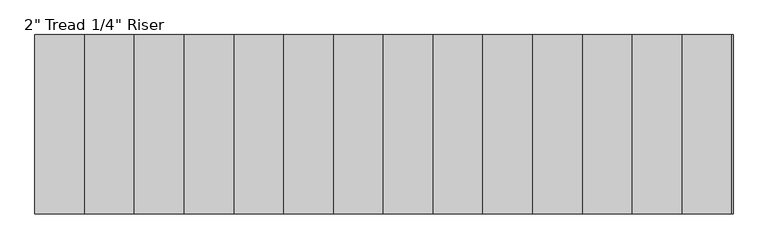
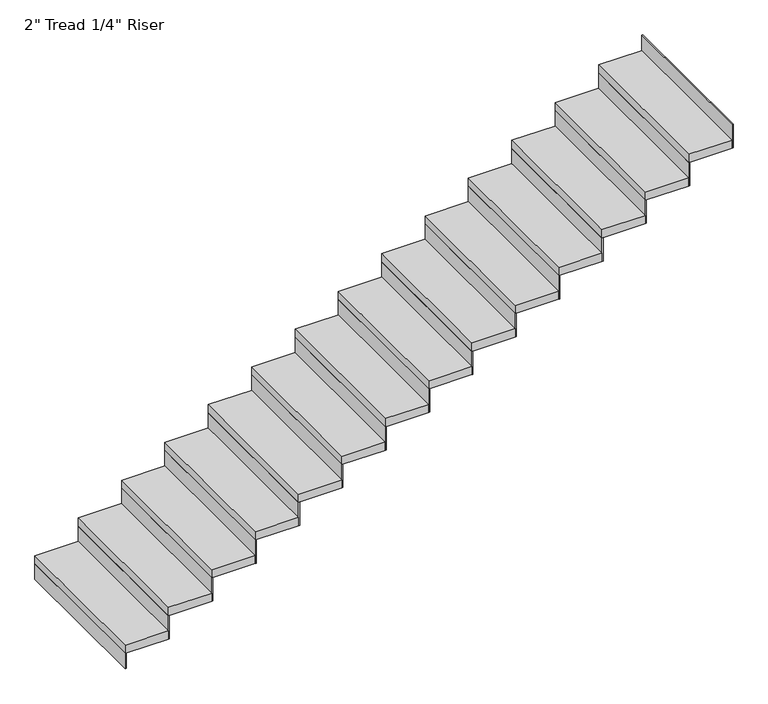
"""IFC4 building model written with IfcOpenShell, lengths in millimetres: stair flight geometry."""

from ifc_helpers import new_model, si_unit, frame, origin, origin_with_axes, place, context, project, spatial, polyline, outline, extrude, source, transform, mapped, element, save


def stair_flight_df6e5273(model_context):
    return source(origin(), model_context, "Body", "SweptSolid", [
        extrude(outline(polyline([(84202.5548368, 32313.9530185), (84196.2048368, 32313.9530185), (84196.2048368, 33228.3530185), (84202.5548368, 33228.3530185), (84202.5548368, 32313.9530185)])), origin_with_axes(), (0.0, 0.0, 1.0), 94.3428571),
        extrude(outline(polyline([(84450.2048368, 33228.3530185), (84450.2048368, 32313.9530185), (84196.2048368, 32313.9530185), (84196.2048368, 33228.3530185), (84450.2048368, 33228.3530185)])), frame((0.0, 0.0, 94.3428571), z_axis=(0.0, 0.0, 1.0), x_axis=(1.0, 0.0, 0.0)), (0.0, 0.0, 1.0), 50.8),
        extrude(outline(polyline([(84456.5548368, 32313.9530185), (84450.2048368, 32313.9530185), (84450.2048368, 33228.3530185), (84456.5548368, 33228.3530185), (84456.5548368, 32313.9530185)])), frame((0.0, 0.0, 94.3428571), z_axis=(0.0, 0.0, 1.0), x_axis=(1.0, 0.0, 0.0)), (0.0, 0.0, 1.0), 145.1428571),
        extrude(outline(polyline([(84704.2048368, 33228.3530185), (84704.2048368, 32313.9530185), (84450.2048368, 32313.9530185), (84450.2048368, 33228.3530185), (84704.2048368, 33228.3530185)])), frame((0.0, 0.0, 239.4857143), z_axis=(0.0, 0.0, 1.0), x_axis=(1.0, 0.0, 0.0)), (0.0, 0.0, 1.0), 50.8),
        extrude(outline(polyline([(84710.5548368, 32313.9530185), (84704.2048368, 32313.9530185), (84704.2048368, 33228.3530185), (84710.5548368, 33228.3530185), (84710.5548368, 32313.9530185)])), frame((0.0, 0.0, 239.4857143), z_axis=(0.0, 0.0, 1.0), x_axis=(1.0, 0.0, 0.0)), (0.0, 0.0, 1.0), 145.1428571),
        extrude(outline(polyline([(84958.2048368, 33228.3530185), (84958.2048368, 32313.9530185), (84704.2048368, 32313.9530185), (84704.2048368, 33228.3530185), (84958.2048368, 33228.3530185)])), frame((0.0, 0.0, 384.6285714), z_axis=(0.0, 0.0, 1.0), x_axis=(1.0, 0.0, 0.0)), (0.0, 0.0, 1.0), 50.8),
        extrude(outline(polyline([(84964.5548368, 32313.9530185), (84958.2048368, 32313.9530185), (84958.2048368, 33228.3530185), (84964.5548368, 33228.3530185), (84964.5548368, 32313.9530185)])), frame((0.0, 0.0, 384.6285714), z_axis=(0.0, 0.0, 1.0), x_axis=(1.0, 0.0, 0.0)), (0.0, 0.0, 1.0), 145.1428571),
        extrude(outline(polyline([(85212.2048368, 33228.3530185), (85212.2048368, 32313.9530185), (84958.2048368, 32313.9530185), (84958.2048368, 33228.3530185), (85212.2048368, 33228.3530185)])), frame((0.0, 0.0, 529.7714286), z_axis=(0.0, 0.0, 1.0), x_axis=(1.0, 0.0, 0.0)), (0.0, 0.0, 1.0), 50.8),
        extrude(outline(polyline([(85218.5548368, 32313.9530185), (85212.2048368, 32313.9530185), (85212.2048368, 33228.3530185), (85218.5548368, 33228.3530185), (85218.5548368, 32313.9530185)])), frame((0.0, 0.0, 529.7714286), z_axis=(0.0, 0.0, 1.0), x_axis=(1.0, 0.0, 0.0)), (0.0, 0.0, 1.0), 145.1428571),
        extrude(outline(polyline([(85466.2048368, 33228.3530185), (85466.2048368, 32313.9530185), (85212.2048368, 32313.9530185), (85212.2048368, 33228.3530185), (85466.2048368, 33228.3530185)])), frame((0.0, 0.0, 674.9142857), z_axis=(0.0, 0.0, 1.0), x_axis=(1.0, 0.0, 0.0)), (0.0, 0.0, 1.0), 50.8),
        extrude(outline(polyline([(85472.5548368, 32313.9530185), (85466.2048368, 32313.9530185), (85466.2048368, 33228.3530185), (85472.5548368, 33228.3530185), (85472.5548368, 32313.9530185)])), frame((0.0, 0.0, 674.9142857), z_axis=(0.0, 0.0, 1.0), x_axis=(1.0, 0.0, 0.0)), (0.0, 0.0, 1.0), 145.1428571),
        extrude(outline(polyline([(85720.2048368, 33228.3530185), (85720.2048368, 32313.9530185), (85466.2048368, 32313.9530185), (85466.2048368, 33228.3530185), (85720.2048368, 33228.3530185)])), frame((0.0, 0.0, 820.0571429), z_axis=(0.0, 0.0, 1.0), x_axis=(1.0, 0.0, 0.0)), (0.0, 0.0, 1.0), 50.8),
        extrude(outline(polyline([(85726.5548368, 32313.9530185), (85720.2048368, 32313.9530185), (85720.2048368, 33228.3530185), (85726.5548368, 33228.3530185), (85726.5548368, 32313.9530185)])), frame((0.0, 0.0, 820.0571429), z_axis=(0.0, 0.0, 1.0), x_axis=(1.0, 0.0, 0.0)), (0.0, 0.0, 1.0), 145.1428571),
        extrude(outline(polyline([(85974.2048368, 33228.3530185), (85974.2048368, 32313.9530185), (85720.2048368, 32313.9530185), (85720.2048368, 33228.3530185), (85974.2048368, 33228.3530185)])), frame((0.0, 0.0, 965.2), z_axis=(0.0, 0.0, 1.0), x_axis=(1.0, 0.0, 0.0)), (0.0, 0.0, 1.0), 50.8),
        extrude(outline(polyline([(85980.5548368, 32313.9530185), (85974.2048368, 32313.9530185), (85974.2048368, 33228.3530185), (85980.5548368, 33228.3530185), (85980.5548368, 32313.9530185)])), frame((0.0, 0.0, 965.2), z_axis=(0.0, 0.0, 1.0), x_axis=(1.0, 0.0, 0.0)), (0.0, 0.0, 1.0), 145.1428571),
        extrude(outline(polyline([(86228.2048368, 33228.3530185), (86228.2048368, 32313.9530185), (85974.2048368, 32313.9530185), (85974.2048368, 33228.3530185), (86228.2048368, 33228.3530185)])), frame((0.0, 0.0, 1110.3428571), z_axis=(0.0, 0.0, 1.0), x_axis=(1.0, 0.0, 0.0)), (0.0, 0.0, 1.0), 50.8),
        extrude(outline(polyline([(86234.5548368, 32313.9530185), (86228.2048368, 32313.9530185), (86228.2048368, 33228.3530185), (86234.5548368, 33228.3530185), (86234.5548368, 32313.9530185)])), frame((0.0, 0.0, 1110.3428571), z_axis=(0.0, 0.0, 1.0), x_axis=(1.0, 0.0, 0.0)), (0.0, 0.0, 1.0), 145.1428571),
        extrude(outline(polyline([(86482.2048368, 33228.3530185), (86482.2048368, 32313.9530185), (86228.2048368, 32313.9530185), (86228.2048368, 33228.3530185), (86482.2048368, 33228.3530185)])), frame((0.0, 0.0, 1255.4857143), z_axis=(0.0, 0.0, 1.0), x_axis=(1.0, 0.0, 0.0)), (0.0, 0.0, 1.0), 50.8),
        extrude(outline(polyline([(86488.5548368, 32313.9530185), (86482.2048368, 32313.9530185), (86482.2048368, 33228.3530185), (86488.5548368, 33228.3530185), (86488.5548368, 32313.9530185)])), frame((0.0, 0.0, 1255.4857143), z_axis=(0.0, 0.0, 1.0), x_axis=(1.0, 0.0, 0.0)), (0.0, 0.0, 1.0), 145.1428571),
        extrude(outline(polyline([(86736.2048368, 33228.3530185), (86736.2048368, 32313.9530185), (86482.2048368, 32313.9530185), (86482.2048368, 33228.3530185), (86736.2048368, 33228.3530185)])), frame((0.0, 0.0, 1400.6285714), z_axis=(0.0, 0.0, 1.0), x_axis=(1.0, 0.0, 0.0)), (0.0, 0.0, 1.0), 50.8),
        extrude(outline(polyline([(86742.5548368, 32313.9530185), (86736.2048368, 32313.9530185), (86736.2048368, 33228.3530185), (86742.5548368, 33228.3530185), (86742.5548368, 32313.9530185)])), frame((0.0, 0.0, 1400.6285714), z_axis=(0.0, 0.0, 1.0), x_axis=(1.0, 0.0, 0.0)), (0.0, 0.0, 1.0), 145.1428571),
        extrude(outline(polyline([(86990.2048368, 33228.3530185), (86990.2048368, 32313.9530185), (86736.2048368, 32313.9530185), (86736.2048368, 33228.3530185), (86990.2048368, 33228.3530185)])), frame((0.0, 0.0, 1545.7714286), z_axis=(0.0, 0.0, 1.0), x_axis=(1.0, 0.0, 0.0)), (0.0, 0.0, 1.0), 50.8),
        extrude(outline(polyline([(86996.5548368, 32313.9530185), (86990.2048368, 32313.9530185), (86990.2048368, 33228.3530185), (86996.5548368, 33228.3530185), (86996.5548368, 32313.9530185)])), frame((0.0, 0.0, 1545.7714286), z_axis=(0.0, 0.0, 1.0), x_axis=(1.0, 0.0, 0.0)), (0.0, 0.0, 1.0), 145.1428571),
        extrude(outline(polyline([(87244.2048368, 33228.3530185), (87244.2048368, 32313.9530185), (86990.2048368, 32313.9530185), (86990.2048368, 33228.3530185), (87244.2048368, 33228.3530185)])), frame((0.0, 0.0, 1690.9142857), z_axis=(0.0, 0.0, 1.0), x_axis=(1.0, 0.0, 0.0)), (0.0, 0.0, 1.0), 50.8),
        extrude(outline(polyline([(87250.5548368, 32313.9530185), (87244.2048368, 32313.9530185), (87244.2048368, 33228.3530185), (87250.5548368, 33228.3530185), (87250.5548368, 32313.9530185)])), frame((0.0, 0.0, 1690.9142857), z_axis=(0.0, 0.0, 1.0), x_axis=(1.0, 0.0, 0.0)), (0.0, 0.0, 1.0), 145.1428571),
        extrude(outline(polyline([(87498.2048368, 33228.3530185), (87498.2048368, 32313.9530185), (87244.2048368, 32313.9530185), (87244.2048368, 33228.3530185), (87498.2048368, 33228.3530185)])), frame((0.0, 0.0, 1836.0571429), z_axis=(0.0, 0.0, 1.0), x_axis=(1.0, 0.0, 0.0)), (0.0, 0.0, 1.0), 50.8),
        extrude(outline(polyline([(87504.5548368, 32313.9530185), (87498.2048368, 32313.9530185), (87498.2048368, 33228.3530185), (87504.5548368, 33228.3530185), (87504.5548368, 32313.9530185)])), frame((0.0, 0.0, 1836.0571429), z_axis=(0.0, 0.0, 1.0), x_axis=(1.0, 0.0, 0.0)), (0.0, 0.0, 1.0), 145.1428571),
        extrude(outline(polyline([(87758.5548368, 32313.9530185), (87752.2048368, 32313.9530185), (87752.2048368, 33228.3530185), (87758.5548368, 33228.3530185), (87758.5548368, 32313.9530185)])), frame((0.0, 0.0, 1981.2), z_axis=(0.0, 0.0, 1.0), x_axis=(1.0, 0.0, 0.0)), (0.0, 0.0, 1.0), 145.1428571),
        extrude(outline(polyline([(87752.2048368, 33228.3530185), (87752.2048368, 32313.9530185), (87498.2048368, 32313.9530185), (87498.2048368, 33228.3530185), (87752.2048368, 33228.3530185)])), frame((0.0, 0.0, 1981.2), z_axis=(0.0, 0.0, 1.0), x_axis=(1.0, 0.0, 0.0)), (0.0, 0.0, 1.0), 50.8),
    ])


if __name__ == "__main__":
    model = new_model("IFC4")
    model_context = context("Model", 3, world=origin())
    ifc_project = project(units=[si_unit("LENGTHUNIT", "METRE", prefix="MILLI")], contexts=[model_context])
    site = spatial("IfcSite", under=ifc_project)
    building = spatial("IfcBuilding", under=site)
    placement = place(None, origin())
    stair_flight_shape = stair_flight_df6e5273(model_context)
    element("IfcStairFlight", 1, ObjectType="2\" Tread 1/4\" Riser", at=placement, inside=building, context=model_context, shape_type="MappedRepresentation", body=[
        mapped(stair_flight_shape, transform((0.0, 0.0, 0.0), x_axis=(1.0, 0.0, 0.0), y_axis=(0.0, 1.0, 0.0), z_axis=(0.0, 0.0, 1.0))),
    ])
    save(model, "model.ifc")
